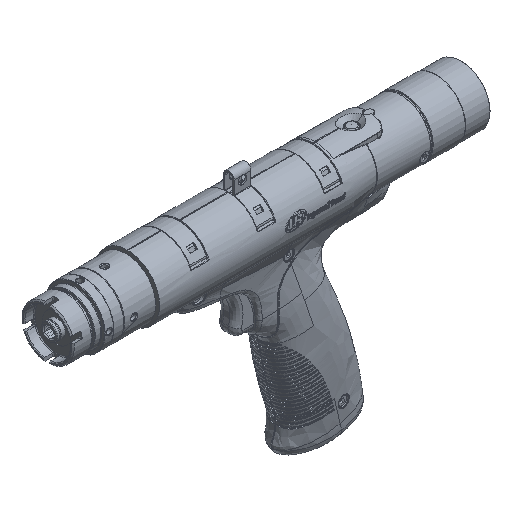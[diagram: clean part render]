
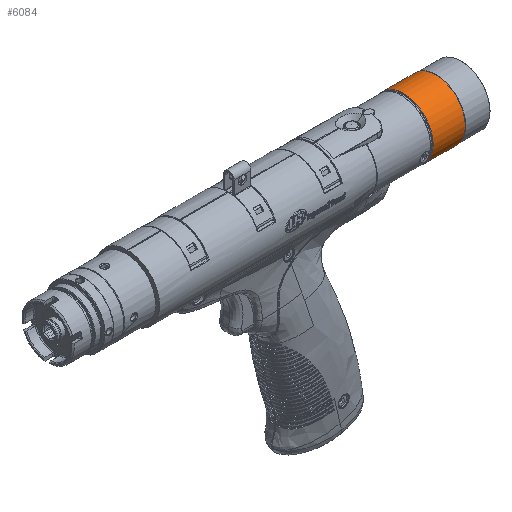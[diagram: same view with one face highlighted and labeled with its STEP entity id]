
A CAD part, isometric view. The second image highlights one B-rep face of the part: STEP entity #6084.
In plain terms, the highlighted cylindrical face has radius 17.75 mm (diameter 35.5 mm), a full revolution.
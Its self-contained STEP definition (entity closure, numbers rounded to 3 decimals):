
#1618=CIRCLE('',#29975,17.75);
#1619=CIRCLE('',#29977,17.75);
#6084=ADVANCED_FACE('',(#8728,#8729,#8730),#6822,.T.);
#6822=CYLINDRICAL_SURFACE('',#29978,17.75);
#8728=FACE_BOUND('',#10230,.T.);
#8729=FACE_BOUND('',#10231,.T.);
#8730=FACE_BOUND('',#10232,.T.);
#10230=EDGE_LOOP('',(#17009));
#10231=EDGE_LOOP('',(#17010));
#10232=EDGE_LOOP('',(#17011));
#17009=ORIENTED_EDGE('',*,*,#25373,.T.);
#17010=ORIENTED_EDGE('',*,*,#25361,.F.);
#17011=ORIENTED_EDGE('',*,*,#25372,.F.);
#21469=VERTEX_POINT('',#95620);
#21480=VERTEX_POINT('',#95650);
#21481=VERTEX_POINT('',#95653);
#25361=EDGE_CURVE('',#21469,#21469,#28694,.T.);
#25372=EDGE_CURVE('',#21480,#21480,#1618,.T.);
#25373=EDGE_CURVE('',#21481,#21481,#1619,.T.);
#28694=B_SPLINE_CURVE_WITH_KNOTS('',3,(#95562,#95563,#95564,#95565,#95566,
#95567,#95568,#95569,#95570,#95571,#95572,#95573,#95574,#95575,#95576,#95577,
#95578,#95579,#95580,#95581,#95582,#95583,#95584,#95585,#95586,#95587,#95588,
#95589,#95590,#95591,#95592,#95593,#95594,#95595,#95596,#95597,#95598,#95599,
#95600,#95601,#95602,#95603,#95604,#95605,#95606,#95607,#95608,#95609,#95610,
#95611,#95612,#95613,#95614,#95615,#95616,#95617,#95618,#95619),.UNSPECIFIED.,
.T.,.F.,(1,3,3,3,3,3,3,3,3,3,3,3,3,3,3,3,3,3,3,3,3,1),(-0.038,
0.,0.053,0.106,0.16,0.214,
0.267,0.32,0.374,0.427,
0.481,0.535,0.587,0.641,
0.695,0.749,0.802,0.855,
0.908,0.962,1.,1.053),.UNSPECIFIED.);
#29975=AXIS2_PLACEMENT_3D('',#95649,#33841,#33842);
#29977=AXIS2_PLACEMENT_3D('',#95652,#33845,#33846);
#29978=AXIS2_PLACEMENT_3D('',#95654,#33847,#33848);
#33841=DIRECTION('',(1.,0.,0.));
#33842=DIRECTION('',(0.,0.,-1.));
#33845=DIRECTION('',(1.,0.,0.));
#33846=DIRECTION('',(0.,0.,1.));
#33847=DIRECTION('',(1.,0.,0.));
#33848=DIRECTION('',(0.,0.,-1.));
#95562=CARTESIAN_POINT('',(168.589,0.,-17.75));
#95563=CARTESIAN_POINT('',(168.589,-0.322,-17.75));
#95564=CARTESIAN_POINT('',(168.534,-0.649,-17.741));
#95565=CARTESIAN_POINT('',(168.428,-0.953,-17.724));
#95566=CARTESIAN_POINT('',(168.322,-1.257,-17.708));
#95567=CARTESIAN_POINT('',(168.163,-1.546,-17.684));
#95568=CARTESIAN_POINT('',(167.964,-1.798,-17.659));
#95569=CARTESIAN_POINT('',(167.764,-2.052,-17.633));
#95570=CARTESIAN_POINT('',(167.517,-2.275,-17.605));
#95571=CARTESIAN_POINT('',(167.243,-2.448,-17.58));
#95572=CARTESIAN_POINT('',(166.968,-2.623,-17.556));
#95573=CARTESIAN_POINT('',(166.659,-2.752,-17.535));
#95574=CARTESIAN_POINT('',(166.341,-2.826,-17.524));
#95575=CARTESIAN_POINT('',(166.026,-2.898,-17.512));
#95576=CARTESIAN_POINT('',(165.693,-2.918,-17.509));
#95577=CARTESIAN_POINT('',(165.372,-2.883,-17.514));
#95578=CARTESIAN_POINT('',(165.053,-2.847,-17.52));
#95579=CARTESIAN_POINT('',(164.736,-2.758,-17.535));
#95580=CARTESIAN_POINT('',(164.447,-2.621,-17.555));
#95581=CARTESIAN_POINT('',(164.157,-2.483,-17.576));
#95582=CARTESIAN_POINT('',(163.886,-2.294,-17.603));
#95583=CARTESIAN_POINT('',(163.657,-2.069,-17.629));
#95584=CARTESIAN_POINT('',(163.426,-1.842,-17.656));
#95585=CARTESIAN_POINT('',(163.23,-1.571,-17.683));
#95586=CARTESIAN_POINT('',(163.086,-1.279,-17.704));
#95587=CARTESIAN_POINT('',(162.943,-0.987,-17.725));
#95588=CARTESIAN_POINT('',(162.848,-0.666,-17.74));
#95589=CARTESIAN_POINT('',(162.809,-0.342,-17.747));
#95590=CARTESIAN_POINT('',(162.771,-0.022,-17.753));
#95591=CARTESIAN_POINT('',(162.788,0.309,-17.75));
#95592=CARTESIAN_POINT('',(162.857,0.624,-17.739));
#95593=CARTESIAN_POINT('',(162.926,0.937,-17.728));
#95594=CARTESIAN_POINT('',(163.049,1.242,-17.709));
#95595=CARTESIAN_POINT('',(163.216,1.514,-17.685));
#95596=CARTESIAN_POINT('',(163.384,1.789,-17.662));
#95597=CARTESIAN_POINT('',(163.602,2.039,-17.634));
#95598=CARTESIAN_POINT('',(163.851,2.243,-17.608));
#95599=CARTESIAN_POINT('',(164.103,2.449,-17.581));
#95600=CARTESIAN_POINT('',(164.394,2.615,-17.557));
#95601=CARTESIAN_POINT('',(164.7,2.726,-17.539));
#95602=CARTESIAN_POINT('',(165.006,2.837,-17.522));
#95603=CARTESIAN_POINT('',(165.335,2.897,-17.512));
#95604=CARTESIAN_POINT('',(165.66,2.9,-17.512));
#95605=CARTESIAN_POINT('',(165.981,2.903,-17.511));
#95606=CARTESIAN_POINT('',(166.307,2.851,-17.52));
#95607=CARTESIAN_POINT('',(166.611,2.749,-17.536));
#95608=CARTESIAN_POINT('',(166.915,2.647,-17.552));
#95609=CARTESIAN_POINT('',(167.205,2.493,-17.575));
#95610=CARTESIAN_POINT('',(167.459,2.297,-17.601));
#95611=CARTESIAN_POINT('',(167.715,2.1,-17.626));
#95612=CARTESIAN_POINT('',(167.941,1.856,-17.655));
#95613=CARTESIAN_POINT('',(168.118,1.584,-17.679));
#95614=CARTESIAN_POINT('',(168.296,1.312,-17.704));
#95615=CARTESIAN_POINT('',(168.429,1.004,-17.724));
#95616=CARTESIAN_POINT('',(168.506,0.687,-17.737));
#95617=CARTESIAN_POINT('',(168.561,0.463,-17.745));
#95618=CARTESIAN_POINT('',(168.589,0.231,-17.75));
#95619=CARTESIAN_POINT('',(168.589,0.,-17.75));
#95620=CARTESIAN_POINT('',(168.589,0.,-17.75));
#95649=CARTESIAN_POINT('',(174.34,0.,0.));
#95650=CARTESIAN_POINT('',(174.34,0.,-17.75));
#95652=CARTESIAN_POINT('',(154.84,0.,0.));
#95653=CARTESIAN_POINT('',(154.84,0.,17.75));
#95654=CARTESIAN_POINT('',(204.088,0.,0.));
